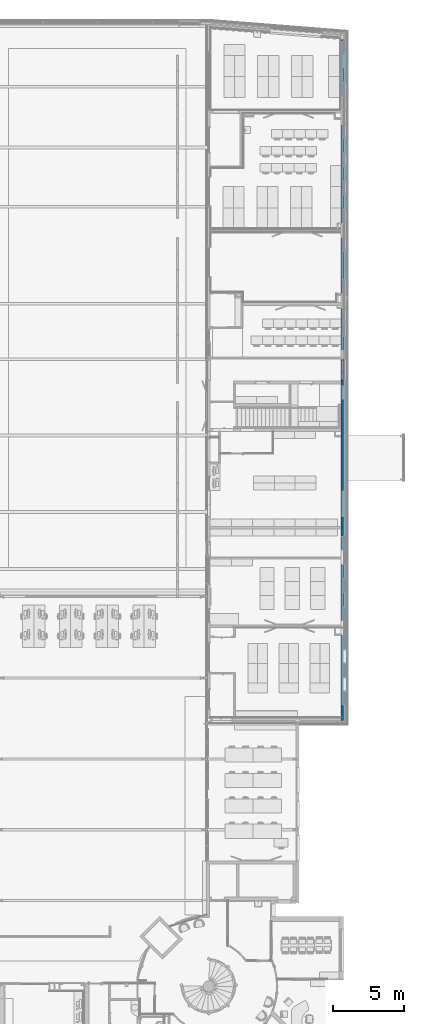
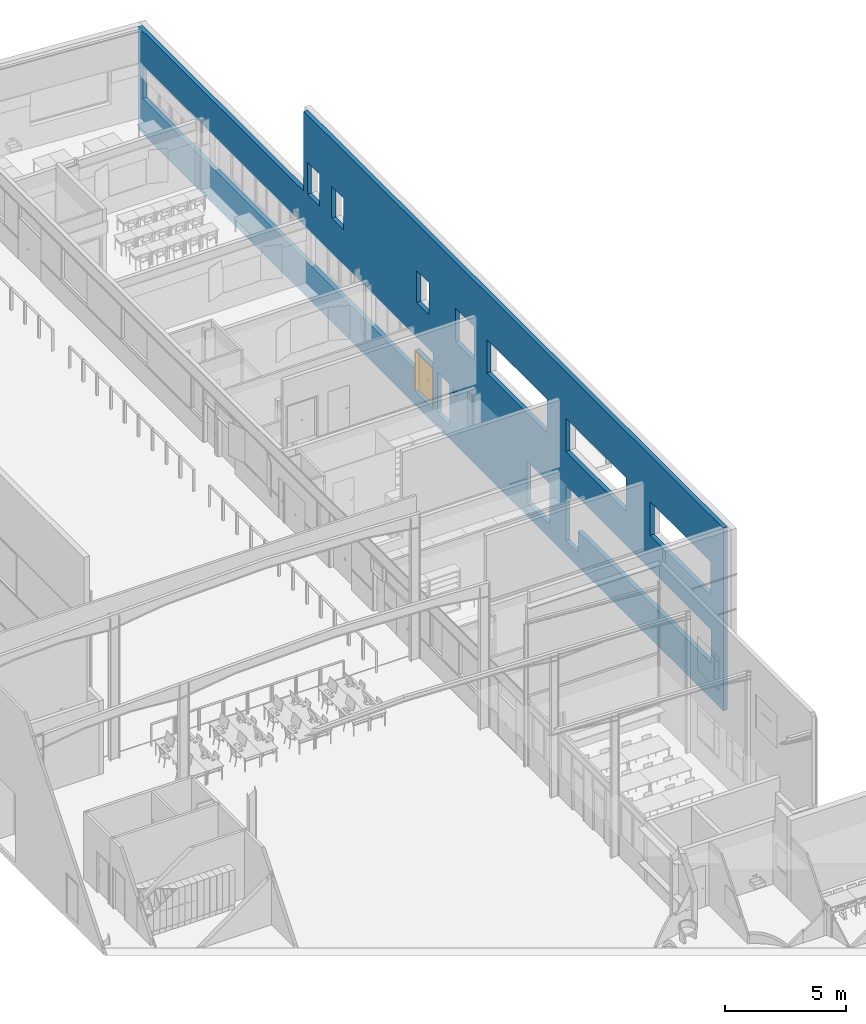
# One storey, part 99 of 137: 1 door, 1 wall, 4 openings.
"""IFC2X3 building model written with IfcOpenShell, lengths in centimetres."""

from ifc_helpers import new_model, entity, si_unit, converted_unit, derived_unit, direction, frame, frame_2d, origin, place, context, subcontext, project, spatial, rectangle, extrude, faceted_brep, source, transform, mapped, material, material_list, type_object, type_shapes, element, fill, save


model = new_model("IFC2X3")

# Units and contexts
model_context = context("Model", 3, precision=0.001, world=origin(), true_north=direction((6.12303176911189e-17, 1.0)))
body_context = subcontext(model_context, "Body", "Model", "MODEL_VIEW")
ifc_project = project(units=[si_unit("LENGTHUNIT", "METRE", prefix="CENTI"), si_unit("AREAUNIT", "SQUARE_METRE"), si_unit("VOLUMEUNIT", "CUBIC_METRE"), converted_unit("PLANEANGLEUNIT", "DEGREE", entity("IfcRatioMeasure", 0.0174532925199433), si_unit("PLANEANGLEUNIT", "RADIAN"), dimensions=[0, 0, 0, 0, 0, 0, 0]), si_unit("MASSUNIT", "GRAM", prefix="KILO"), si_unit("TIMEUNIT", "SECOND"), si_unit("FREQUENCYUNIT", "HERTZ"), si_unit("THERMODYNAMICTEMPERATUREUNIT", "DEGREE_CELSIUS"), derived_unit("THERMALTRANSMITTANCEUNIT", [(si_unit("MASSUNIT", "GRAM", prefix="KILO"), 1), (si_unit("THERMODYNAMICTEMPERATUREUNIT", "KELVIN"), -1), (si_unit("TIMEUNIT", "SECOND"), -3)]), derived_unit("VOLUMETRICFLOWRATEUNIT", [(si_unit("LENGTHUNIT", "METRE"), 3), (si_unit("TIMEUNIT", "SECOND"), -1)]), si_unit("ELECTRICCURRENTUNIT", "AMPERE"), si_unit("ELECTRICVOLTAGEUNIT", "VOLT"), si_unit("POWERUNIT", "WATT"), si_unit("FORCEUNIT", "NEWTON", prefix="KILO"), si_unit("ILLUMINANCEUNIT", "LUX"), si_unit("LUMINOUSFLUXUNIT", "LUMEN"), si_unit("LUMINOUSINTENSITYUNIT", "CANDELA"), derived_unit("USERDEFINED", [(si_unit("MASSUNIT", "GRAM", prefix="KILO"), -1), (si_unit("LENGTHUNIT", "METRE"), -2), (si_unit("TIMEUNIT", "SECOND"), 3), (si_unit("LUMINOUSFLUXUNIT", "LUMEN"), 1)]), derived_unit("LINEARVELOCITYUNIT", [(si_unit("LENGTHUNIT", "METRE"), 1), (si_unit("TIMEUNIT", "SECOND"), -1)]), si_unit("PRESSUREUNIT", "PASCAL"), derived_unit("USERDEFINED", [(si_unit("LENGTHUNIT", "METRE"), -2), (si_unit("MASSUNIT", "GRAM", prefix="KILO"), 1), (si_unit("TIMEUNIT", "SECOND"), -2)])], contexts=[model_context])

# Site, building, storey
site_placement = place(None, frame((8.62739174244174, -249.285249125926, 0.0)))
site = spatial("IfcSite", under=ifc_project, at=site_placement, Name="Default", CompositionType="ELEMENT")
building_placement = place(site_placement, origin())
building = spatial("IfcBuilding", under=site, at=building_placement, CompositionType="ELEMENT")
storey_placement = place(building_placement, origin())
storey = spatial("IfcBuildingStorey", under=building, at=storey_placement, Name="RDC", CompositionType="ELEMENT", Elevation=-8.82465566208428e-11)

# Wall, openings, door
ifc_material_1 = material(Name="Béton, coulé sur place, gris")
wall_type = type_object("IfcWallType", Name="Mur de base:BET 21", PredefinedType="NOTDEFINED")
wall_placement = place(storey_placement, frame((3988.90482781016, 2634.98020806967, -70.0), z_axis=(0.0, 0.0, 1.0), x_axis=(0.0, 1.0, 0.0)))
wall = element("IfcWall", 1, at=wall_placement, inside=storey, type_object=wall_type, material=ifc_material_1, Name="Mur de base:BET 21", ObjectType="Mur de base:BET 21", context=body_context, shape_type="Brep", body=[
    faceted_brep([(4814.40916101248, -10.0, 350.0), (4814.40916101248, -10.0, 180.0), (2558.0, -10.0, 180.0), (2558.0, -10.0, 278.0), (2407.0, -10.0, 278.0), (2407.0, -10.0, 350.0), (2223.0, -10.0, 691.0), (2223.0, -10.0, 521.0), (2068.0, -10.0, 521.0), (2068.0, -10.0, 691.0), (2236.48822441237, -10.0, 273.988224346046), (2236.48822441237, -10.0, 253.988224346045), (2205.51572422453, -10.0, 253.988224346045), (2205.51572422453, -10.0, 273.988224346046), (2408.0, -10.0, 70.0), (2408.0, -10.0, 85.0), (2408.0, -10.0, 277.0), (2557.0, -10.0, 277.0), (2557.0, -10.0, 85.0), (2557.0, -10.0, 70.0), (2372.0, -10.0, 277.499999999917), (2372.0, -10.0, 85.0), (2372.0, -10.0, 70.0), (2272.0, -10.0, 70.0), (2272.0, -10.0, 85.0), (2272.0, -10.0, 277.499999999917), (1629.20498529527, -10.0, 277.0), (1629.20498529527, -10.0, 85.0), (1629.20498529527, -10.0, 70.0), (1440.20498529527, -10.0, 70.0), (1440.20498529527, -10.0, 85.0), (1440.20498529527, -10.0, 277.0), (1305.204985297, -10.0, 277.499999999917), (1305.204985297, -10.0, 85.0), (1305.204985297, -10.0, 70.0), (1205.204985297, -10.0, 70.0), (1205.204985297, -10.0, 85.0), (1205.204985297, -10.0, 180.0), (104.204985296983, -10.0, 180.0), (104.204985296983, -10.0, 350.0), (1304.20498529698, -10.0, 350.0), (1304.20498529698, -10.0, 277.499999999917), (1961.60249267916, -10.0, 691.0), (1961.60249267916, -10.0, 521.0), (1461.60249267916, -10.0, 521.0), (1461.60249267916, -10.0, 691.0), (1306.70498529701, -10.0, 691.0), (1306.70498529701, -10.0, 521.0), (806.704985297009, -10.0, 521.0), (806.704985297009, -10.0, 691.0), (606.704985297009, -10.0, 691.0), (606.704985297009, -10.0, 521.0), (106.704985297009, -10.0, 521.0), (106.704985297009, -10.0, 691.0), (3448.0117757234, -10.0, 686.011775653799), (3448.0117757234, -10.0, 525.011775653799), (3348.0117757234, -10.0, 525.011775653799), (3348.0117757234, -10.0, 686.011775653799), (3006.0, -10.0, 170.207427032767), (3006.0, -10.0, 89.8417534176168), (2975.0, -10.0, 89.8417534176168), (2975.0, -10.0, 170.207427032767), (2543.0, -10.0, 686.5117756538), (2543.0, -10.0, 525.511775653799), (2443.0, -10.0, 525.511775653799), (2443.0, -10.0, 686.5117756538), (3480.0, -10.0, 925.0), (3448.0, -10.0, 925.0), (32.0, -10.0, 925.0), (0.0, -10.0, 925.0), (0.0, -10.0, 0.0), (4853.30717049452, -10.0, 0.0), (4853.30717049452, -10.0, 521.0), (3507.0, -10.0, 521.0), (3480.0, -10.0, 521.0), (3248.0117757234, -10.0, 686.011775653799), (3248.0117757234, -10.0, 525.011775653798), (3148.0117757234, -10.0, 525.011775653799), (3148.0117757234, -10.0, 686.011775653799), (2408.0, 10.0, 277.0), (2408.0, 10.0, 70.0), (2557.0, 10.0, 70.0), (2557.0, 10.0, 277.0), (2372.0, 10.0, 70.0), (2372.0, 10.0, 277.499999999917), (2272.0, 10.0, 277.499999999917), (2272.0, 10.0, 70.0), (1629.20498529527, 10.0, 70.0), (1629.20498529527, 10.0, 277.0), (1440.20498529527, 10.0, 277.0), (1440.20498529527, 10.0, 70.0), (1305.204985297, 10.0, 70.0), (1305.204985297, 10.0, 277.499999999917), (1304.20498529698, 10.0, 277.499999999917), (1304.20498529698, 10.0, 350.0), (104.204985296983, 10.0, 350.0), (104.204985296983, 10.0, 180.0), (1205.204985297, 10.0, 180.0), (1205.204985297, 10.0, 70.0), (4814.40916101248, 10.0, 180.0), (4814.40916101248, 10.0, 350.0), (2407.0, 10.0, 350.0), (2407.0, 10.0, 278.0), (2558.0, 10.0, 278.0), (2558.0, 10.0, 180.0), (2223.0, 10.0, 521.0), (2223.0, 10.0, 691.0), (2068.0, 10.0, 691.0), (2068.0, 10.0, 521.0), (0.0, 10.0, 925.0), (20.0, 10.0, 925.0), (3460.0, 10.0, 925.0), (3480.0, 10.0, 925.0), (3480.0, 10.0, 521.0), (4834.82616616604, 10.0, 521.0), (4854.88859101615, 10.0, 521.0), (4854.88859101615, 10.0, 0.0), (4834.82616616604, 10.0, 0.0), (2960.0, 10.0, 0.0), (2940.0, 10.0, 0.0), (2403.0, 10.0, 0.0), (2383.0, 10.0, 0.0), (2068.0, 10.0, 0.0), (2048.0, 10.0, 0.0), (1375.20498529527, 10.0, 0.0), (1355.20498529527, 10.0, 0.0), (0.0, 10.0, 0.0), (2236.48822441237, 10.0, 253.988224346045), (2236.48822441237, 10.0, 273.988224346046), (2205.51572422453, 10.0, 273.988224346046), (2205.51572422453, 10.0, 253.988224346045), (1961.60249267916, 10.0, 521.0), (1961.60249267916, 10.0, 691.0), (1461.60249267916, 10.0, 691.0), (1461.60249267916, 10.0, 521.0), (1306.70498529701, 10.0, 521.0), (1306.70498529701, 10.0, 691.0), (806.704985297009, 10.0, 691.0), (806.704985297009, 10.0, 521.0), (606.704985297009, 10.0, 521.0), (606.704985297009, 10.0, 691.0), (106.704985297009, 10.0, 691.0), (106.704985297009, 10.0, 521.0), (3448.0117757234, 10.0, 525.011775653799), (3448.0117757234, 10.0, 686.011775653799), (3348.0117757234, 10.0, 686.011775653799), (3348.0117757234, 10.0, 525.011775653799), (3006.0, 10.0, 89.8417534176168), (3006.0, 10.0, 170.207427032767), (2975.0, 10.0, 170.207427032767), (2975.0, 10.0, 89.8417534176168), (2543.0, 10.0, 525.511775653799), (2543.0, 10.0, 686.5117756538), (2443.0, 10.0, 686.5117756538), (2443.0, 10.0, 525.511775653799), (3248.0117757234, 10.0, 525.011775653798), (3248.0117757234, 10.0, 686.011775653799), (3148.0117757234, 10.0, 686.011775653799), (3148.0117757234, 10.0, 525.011775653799)], [[[0, 1, 2, 3, 4, 5], [6, 7, 8, 9], [10, 11, 12, 13], [14, 15, 16, 17, 18, 19], [20, 21, 22, 23, 24, 25], [26, 27, 28, 29, 30, 31], [32, 33, 34, 35, 36, 37, 38, 39, 40, 41], [42, 43, 44, 45], [46, 47, 48, 49], [50, 51, 52, 53], [54, 55, 56, 57], [58, 59, 60, 61], [62, 63, 64, 65], [66, 67, 68, 69, 70, 71, 72, 73, 74], [75, 76, 77, 78]], [[79, 80, 81, 82], [83, 84, 85, 86], [87, 88, 89, 90], [91, 92, 93, 94, 95, 96, 97, 98], [99, 100, 101, 102, 103, 104], [105, 106, 107, 108], [109, 110, 111, 112, 113, 114, 115, 116, 117, 118, 119, 120, 121, 122, 123, 124, 125, 126], [127, 128, 129, 130], [131, 132, 133, 134], [135, 136, 137, 138], [139, 140, 141, 142], [143, 144, 145, 146], [147, 148, 149, 150], [151, 152, 153, 154], [155, 156, 157, 158]], [[14, 80, 79, 16, 15]], [[16, 79, 82, 17]], [[81, 19, 18, 17, 82]], [[80, 14, 19, 81]], [[83, 22, 21, 20, 84]], [[84, 20, 25, 85]], [[23, 86, 85, 25, 24]], [[22, 83, 86, 23]], [[87, 28, 27, 26, 88]], [[88, 26, 31, 89]], [[29, 90, 89, 31, 30]], [[28, 87, 90, 29]], [[35, 98, 97, 37, 36]], [[92, 32, 41, 93]], [[91, 34, 33, 32, 92]], [[98, 35, 34, 91]], [[69, 68, 67, 66, 112, 111, 110, 109]], [[70, 69, 109, 126]], [[74, 73, 72, 115, 114, 113]], [[66, 74, 113, 112]], [[99, 1, 0, 100]], [[100, 0, 5, 101]], [[101, 5, 4, 102]], [[102, 4, 3, 103]], [[40, 94, 93, 41]], [[94, 40, 39, 95]], [[95, 39, 38, 96]], [[96, 38, 37, 97]], [[103, 3, 2, 104]], [[1, 99, 104, 2]], [[105, 7, 6, 106]], [[106, 6, 9, 107]], [[107, 9, 8, 108]], [[7, 105, 108, 8]], [[11, 10, 128, 127]], [[12, 11, 127, 130]], [[13, 12, 130, 129]], [[10, 13, 129, 128]], [[71, 70, 126, 125, 124, 123, 122, 121, 120, 119, 118, 117, 116]], [[131, 43, 42, 132]], [[132, 42, 45, 133]], [[133, 45, 44, 134]], [[43, 131, 134, 44]], [[135, 47, 46, 136]], [[136, 46, 49, 137]], [[137, 49, 48, 138]], [[47, 135, 138, 48]], [[139, 51, 50, 140]], [[140, 50, 53, 141]], [[141, 53, 52, 142]], [[51, 139, 142, 52]], [[72, 71, 116, 115]], [[55, 54, 144, 143]], [[56, 55, 143, 146]], [[57, 56, 146, 145]], [[54, 57, 145, 144]], [[59, 58, 148, 147]], [[60, 59, 147, 150]], [[61, 60, 150, 149]], [[58, 61, 149, 148]], [[63, 62, 152, 151]], [[64, 63, 151, 154]], [[65, 64, 154, 153]], [[62, 65, 153, 152]], [[76, 75, 156, 155]], [[77, 76, 155, 158]], [[78, 77, 158, 157]], [[75, 78, 157, 156]]], outer=[[False, False, False, False, False, False, False, False, False, False, False, False, False, True, False], [False, False, False, False, False, False, True, False, False, False, False, False, False, False, False], [True], [True], [True], [True], [True], [True], [True], [True], [True], [True], [True], [True], [True], [True], [True], [True], [True], [True], [True], [True], [True], [True], [True], [True], [True], [True], [True], [True], [True], [True], [True], [True], [True], [True], [True], [True], [True], [True], [True], [True], [True], [True], [True], [True], [True], [True], [True], [True], [True], [True], [True], [True], [True], [True], [True], [True], [True], [True], [True], [True], [True], [True], [True], [True], [True], [True], [True], [True]]),
])
opening_1_placement = place(wall_placement, frame((2557.0, 10.0, 70.0)))
opening_1 = element("IfcOpeningElement", 2, at=opening_1_placement, cuts=wall, Name="Tierce(R)_bois_mu:143 x 204 cm:1", ObjectType="Opening", context=body_context, shape_type="SweptSolid", body=[
    extrude(rectangle(XDim=206.999999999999, YDim=149.0, at=frame_2d((103.499999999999, 74.4999999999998), x_axis=(1.0, 0.0))), frame((0.0, 0.0, 0.0), z_axis=(0.0, -1.0, 0.0), x_axis=(0.0, 0.0, 1.0)), (0.0, 0.0, 1.0), 20.0),
])
opening_2_placement = place(wall_placement, frame((2372.0, 10.0, 70.0)))
element("IfcOpeningElement", 3, at=opening_2_placement, cuts=wall, Name="Simple(R)_bois_mu:93 x 204 cm:1", ObjectType="Opening", context=body_context, shape_type="SweptSolid", body=[
    extrude(rectangle(XDim=207.499999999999, YDim=99.9999999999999, at=frame_2d((103.749999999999, 49.9999999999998), x_axis=(1.0, 0.0))), frame((0.0, 0.0, 0.0), z_axis=(0.0, -1.0, 0.0), x_axis=(0.0, 0.0, 1.0)), (0.0, 0.0, 1.0), 20.0),
])
opening_3_placement = place(wall_placement, frame((1629.20498529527, 10.0, 70.0)))
element("IfcOpeningElement", 4, at=opening_3_placement, cuts=wall, Name="Double(R)_bois_mu:183 x 204 cm:1", ObjectType="Opening", context=body_context, shape_type="SweptSolid", body=[
    extrude(rectangle(XDim=206.999999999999, YDim=189.0, at=frame_2d((103.499999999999, 94.5000000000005), x_axis=(1.0, 0.0))), frame((0.0, 0.0, 0.0), z_axis=(0.0, -1.0, 0.0), x_axis=(0.0, 0.0, 1.0)), (0.0, 0.0, 1.0), 20.0),
])
opening_4_placement = place(wall_placement, frame((1305.204985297, 10.0, 70.0)))
element("IfcOpeningElement", 5, at=opening_4_placement, cuts=wall, Name="Simple(R)_bois_mu:93 x 204 cm:1", ObjectType="Opening", context=body_context, shape_type="SweptSolid", body=[
    extrude(rectangle(XDim=207.499999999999, YDim=99.9999999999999, at=frame_2d((103.749999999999, 50.0), x_axis=(1.0, 0.0))), frame((0.0, 0.0, 0.0), z_axis=(0.0, -1.0, 0.0), x_axis=(0.0, 0.0, 1.0)), (0.0, 0.0, 1.0), 20.0),
])
ifc_material_2 = material(Name="Aluminium-Dorma Metal-Anodized Silver")
ifc_material_3 = material(Name="Porte - Cadre")
ifc_material_4 = material(Name="Porte - Panneau")
ifc_material_list_1 = material_list([ifc_material_2, ifc_material_3, ifc_material_4])
ifc_material_list_2 = material_list([ifc_material_2, ifc_material_3, ifc_material_4])
door_style = type_object("IfcDoorStyle", Name="143 x 204 cm", ConstructionType="NOTDEFINED", OperationType="NOTDEFINED", ParameterTakesPrecedence=False, Sizeable=False, material=ifc_material_list_2)
shared_shape = source(origin(), body_context, "Body", "Brep", [
    faceted_brep([(60.2974701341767, 3.69999999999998, 100.778044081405), (59.8999999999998, 3.69999999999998, 100.699999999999), (59.8999999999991, 3.69999999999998, 99.2999999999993), (60.2974701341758, 3.69999999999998, 99.2219559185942), (60.7025298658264, 3.69999999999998, 99.2219559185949), (61.1000000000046, 3.69999999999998, 99.3000000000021), (61.100000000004, 3.69999999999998, 100.699999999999), (60.7025298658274, 3.69999999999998, 100.778044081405), (61.1000000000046, 5.94852045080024, 99.3000000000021), (61.1000000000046, 5.94852045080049, 100.699999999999), (60.7025298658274, 6.1131579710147, 100.778044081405), (62.0838906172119, 7.49451872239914, 100.778044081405), (61.916109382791, 7.89957845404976, 100.778044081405), (60.2974701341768, 6.2809392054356, 100.778044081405), (71.0684749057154, 6.84673156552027, 100.778044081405), (71.3548953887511, 7.13315204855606, 100.778044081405), (70.5884689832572, 7.89957845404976, 100.778044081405), (70.4206877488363, 7.49451872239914, 100.778044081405), (59.8999999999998, 6.44557672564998, 100.699999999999), (59.8999999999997, 6.44557672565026, 99.2999999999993), (60.2974701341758, 6.28093920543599, 99.2219559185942), (61.9161093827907, 7.8995784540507, 99.2219559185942), (62.0838906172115, 7.49451872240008, 99.2219559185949), (60.7025298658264, 6.11315797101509, 99.2219559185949), (71.3548953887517, 7.13315204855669, 99.2219559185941), (71.068474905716, 6.84673156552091, 99.2219559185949), (70.4206877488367, 7.49451872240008, 99.2219559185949), (70.5884689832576, 7.8995784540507, 99.2219559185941), (62.2485281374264, 7.09704858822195, 99.3000000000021), (62.2485281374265, 7.09704858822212, 100.699999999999), (61.7514718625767, 8.29704858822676, 100.699999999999), (61.7514718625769, 8.29704858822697, 99.2999999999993), (66.2522904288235, 7.09704858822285, 99.3000000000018), (70.2560502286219, 7.09704858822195, 99.3000000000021), (70.2560502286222, 7.09704858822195, 100.699999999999), (66.2522891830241, 7.09704858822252, 100.699999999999), (66.2522891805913, 7.71249275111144, 100.787811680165), (70.7531065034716, 8.29704858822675, 100.699999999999), (66.7600577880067, 8.29704858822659, 100.699999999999), (70.7531065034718, 8.29704858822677, 99.2999999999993), (65.7445206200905, 8.29704858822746, 99.2999999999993), (66.2522892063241, 7.71249274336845, 99.2121883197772), (70.7874210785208, 6.56567773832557, 99.3000000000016), (71.6359492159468, 7.41420587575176, 99.2999999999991), (71.6359492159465, 7.4142058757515, 100.699999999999), (70.7874210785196, 6.5656777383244, 100.699999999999)], [[[0, 1, 2, 3, 4, 5, 6, 7]], [[6, 5, 8, 9]], [[9, 10, 7, 6]], [[10, 11, 12, 13, 0, 7]], [[14, 15, 16, 17]], [[13, 18, 1, 0]], [[2, 1, 18, 19]], [[19, 20, 3, 2]], [[20, 21, 22, 23, 4, 3]], [[24, 25, 26, 27]], [[23, 8, 5, 4]], [[9, 8, 28, 29]], [[29, 11, 10, 9]], [[12, 30, 18, 13]], [[19, 18, 30, 31]], [[31, 21, 20, 19]], [[22, 28, 8, 23]], [[29, 28, 32, 33, 34, 35]], [[11, 35, 36]], [[16, 37, 38]], [[30, 12, 38]], [[38, 12, 36]], [[36, 35, 17]], [[17, 16, 36]], [[35, 11, 29]], [[34, 17, 35]], [[11, 36, 12]], [[38, 36, 16]], [[31, 30, 38, 37, 39, 40]], [[40, 41, 21]], [[41, 40, 27]], [[21, 31, 40]], [[39, 27, 40]], [[41, 32, 22]], [[22, 21, 41]], [[26, 32, 41]], [[28, 22, 32]], [[32, 26, 33]], [[26, 41, 27]], [[42, 25, 24, 43, 44, 15, 14, 45]], [[34, 33, 42, 45]], [[45, 14, 17, 34]], [[15, 44, 37, 16]], [[39, 37, 44, 43]], [[43, 24, 27, 39]], [[25, 42, 33, 26]]]),
    faceted_brep([(60.2974701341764, -1.30000000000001, 100.778044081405), (60.702529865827, -1.30000000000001, 100.778044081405), (61.1000000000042, -1.30000000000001, 100.699999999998), (61.1000000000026, -1.30000000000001, 99.3000000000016), (60.7025298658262, -1.30000000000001, 99.2219559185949), (60.2974701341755, -1.30000000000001, 99.2219559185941), (59.8999999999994, -1.30000000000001, 99.2999999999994), (59.8999999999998, -1.30000000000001, 100.699999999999), (59.8999999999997, -4.06509507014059, 100.699999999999), (60.2974701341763, -3.90045754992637, 100.778044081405), (61.9023585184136, -5.50534593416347, 100.778044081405), (62.0701397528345, -5.10028620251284, 100.778044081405), (60.702529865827, -3.73267631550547, 100.778044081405), (71.3521810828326, -4.73891952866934, 100.778044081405), (71.0657605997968, -4.4524990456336, 100.778044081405), (70.4179734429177, -5.10028620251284, 100.778044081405), (70.5857546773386, -5.50534593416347, 100.778044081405), (61.1000000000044, -3.56803879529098, 100.699999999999), (61.1000000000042, -3.56803879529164, 99.3000000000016), (60.7025298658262, -3.7326763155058, 99.2219559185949), (62.0701397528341, -5.10028620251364, 99.2219559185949), (61.9023585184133, -5.50534593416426, 99.2219559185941), (60.2974701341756, -3.9004575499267, 99.2219559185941), (71.0657605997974, -4.45249904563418, 99.2219559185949), (71.3521810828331, -4.73891952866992, 99.2219559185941), (70.5857546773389, -5.50534593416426, 99.2219559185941), (70.417973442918, -5.10028620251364, 99.2219559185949), (59.8999999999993, -4.06509507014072, 99.2999999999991), (61.7377209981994, -5.90281606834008, 100.699999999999), (62.234777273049, -4.70281606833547, 100.699999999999), (62.2347772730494, -4.70281606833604, 99.3000000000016), (61.7377209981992, -5.90281606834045, 99.2999999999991), (65.730769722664, -5.90281606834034, 100.699999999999), (66.2440566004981, -5.31828027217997, 100.787811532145), (70.7503921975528, -5.90281606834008, 100.699999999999), (66.2440565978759, -4.70281606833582, 100.699999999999), (70.2533359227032, -4.70281606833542, 100.699999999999), (70.2533359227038, -4.70281606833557, 99.3000000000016), (66.2440563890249, -4.70281606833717, 99.3000000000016), (66.2440565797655, -5.31828027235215, 99.2121884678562), (70.7503921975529, -5.90281606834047, 99.2999999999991), (66.7573433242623, -5.90281606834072, 99.2999999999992), (70.7847067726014, -4.1714452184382, 100.699999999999), (71.6332349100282, -5.01997335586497, 100.699999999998), (71.6332349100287, -5.01997335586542, 99.2999999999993), (70.7847067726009, -4.17144521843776, 99.3000000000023)], [[[0, 1, 2, 3, 4, 5, 6, 7]], [[8, 9, 0, 7]], [[9, 10, 11, 12, 1, 0]], [[13, 14, 15, 16]], [[12, 17, 2, 1]], [[3, 2, 17, 18]], [[18, 19, 4, 3]], [[19, 20, 21, 22, 5, 4]], [[23, 24, 25, 26]], [[22, 27, 6, 5]], [[7, 6, 27, 8]], [[28, 10, 9, 8]], [[11, 29, 17, 12]], [[18, 17, 29, 30]], [[30, 20, 19, 18]], [[21, 31, 27, 22]], [[8, 27, 31, 28]], [[32, 33, 10]], [[33, 32, 16]], [[10, 28, 32]], [[34, 16, 32]], [[33, 35, 11]], [[11, 10, 33]], [[15, 35, 33]], [[29, 11, 35]], [[35, 15, 36]], [[15, 33, 16]], [[30, 29, 35, 36, 37, 38]], [[20, 38, 39]], [[25, 40, 41]], [[31, 21, 41]], [[41, 21, 39]], [[39, 38, 26]], [[26, 25, 39]], [[38, 20, 30]], [[37, 26, 38]], [[20, 39, 21]], [[41, 39, 25]], [[28, 31, 41, 40, 34, 32]], [[42, 14, 13, 43, 44, 24, 23, 45]], [[43, 13, 16, 34]], [[14, 42, 36, 15]], [[37, 36, 42, 45]], [[45, 23, 26, 37]], [[24, 44, 40, 25]], [[34, 40, 44, 43]]]),
    faceted_brep([(61.5352761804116, 3.19999999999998, 86.6003983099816), (62.5000000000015, 3.19999999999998, 87.0), (62.5000000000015, 3.19999999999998, 108.0), (61.5352761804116, 3.19999999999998, 108.399601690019), (60.5000000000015, 3.19999999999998, 108.535898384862), (59.4647238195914, 3.19999999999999, 108.399601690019), (58.5000000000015, 3.19999999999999, 108.0), (58.5000000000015, 3.19999999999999, 87.0), (59.4647238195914, 3.19999999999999, 86.6003983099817), (60.5000000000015, 3.19999999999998, 86.4641016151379), (61.5352761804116, 3.69999999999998, 108.399601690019), (62.5000000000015, 3.69999999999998, 108.0), (62.5000000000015, 3.69999999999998, 87.0), (61.5352761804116, 3.69999999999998, 86.6003983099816), (60.5000000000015, 3.69999999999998, 86.4641016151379), (59.4647238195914, 3.69999999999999, 86.6003983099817), (58.5000000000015, 3.69999999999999, 87.0), (58.5000000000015, 3.69999999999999, 108.0), (59.4647238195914, 3.69999999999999, 108.399601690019), (60.5000000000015, 3.69999999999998, 108.535898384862)], [[[0, 1, 2, 3, 4, 5, 6, 7, 8, 9]], [[10, 11, 12, 13, 14, 15, 16, 17, 18, 19]], [[11, 10, 3, 2]], [[3, 10, 19, 4]], [[19, 18, 5, 4]], [[18, 17, 6, 5]], [[7, 6, 17, 16]], [[16, 15, 8, 7]], [[8, 15, 14, 9]], [[14, 13, 0, 9]], [[13, 12, 1, 0]], [[2, 1, 12, 11]]]),
    faceted_brep([(61.5352761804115, -1.30000000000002, 86.6003983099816), (62.5000000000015, -1.30000000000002, 87.0), (62.5000000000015, -1.30000000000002, 108.0), (61.5352761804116, -1.30000000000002, 108.399601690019), (60.5000000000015, -1.30000000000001, 108.535898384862), (59.4647238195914, -1.30000000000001, 108.399601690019), (58.5000000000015, -1.30000000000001, 108.0), (58.5000000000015, -1.30000000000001, 87.0), (59.4647238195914, -1.30000000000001, 86.6003983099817), (60.5000000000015, -1.30000000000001, 86.4641016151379), (61.5352761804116, -0.800000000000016, 108.399601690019), (62.5000000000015, -0.800000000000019, 108.0), (62.5000000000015, -0.800000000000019, 87.0), (61.5352761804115, -0.800000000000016, 86.6003983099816), (60.5000000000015, -0.800000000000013, 86.4641016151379), (59.4647238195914, -0.800000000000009, 86.6003983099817), (58.5000000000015, -0.800000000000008, 87.0), (58.5000000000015, -0.800000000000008, 108.0), (59.4647238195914, -0.800000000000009, 108.399601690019), (60.5000000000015, -0.800000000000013, 108.535898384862)], [[[0, 1, 2, 3, 4, 5, 6, 7, 8, 9]], [[10, 11, 12, 13, 14, 15, 16, 17, 18, 19]], [[16, 15, 8, 7]], [[8, 15, 14, 9]], [[14, 13, 0, 9]], [[13, 12, 1, 0]], [[2, 1, 12, 11]], [[11, 10, 3, 2]], [[3, 10, 19, 4]], [[19, 18, 5, 4]], [[18, 17, 6, 5]], [[7, 6, 17, 16]]]),
    faceted_brep([(149.0, 0.0, 0.0), (150.0, 0.0, 0.0), (150.0, -0.799999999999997, 0.0), (146.0, -0.799999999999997, 0.0), (146.0, 3.2, 0.0), (145.0, 3.2, 0.0), (145.0, 20.8000000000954, 0.0), (150.0, 20.8000000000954, 0.0), (150.0, 20.0, 0.0), (149.0, 20.0, 0.0), (149.0, 20.0, 207.0), (149.0, 0.0, 207.0), (150.0, 20.0, 208.0), (-1.0, 20.0, 208.0), (-1.0, 20.0, 0.0), (0.0, 20.0, 0.0), (0.0, 20.0, 207.0), (150.0, 20.8000000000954, 208.0), (145.0, 20.8000000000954, 203.0), (4.0, 20.8000000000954, 203.0), (4.0, 20.8000000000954, 0.0), (-1.0, 20.8000000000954, 0.0), (-1.0, 20.8000000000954, 208.0), (145.0, 3.2, 203.0), (146.0, 3.2, 204.0), (3.0, 3.2, 204.0), (3.0, 3.2, 0.0), (4.0, 3.2, 0.0), (4.0, 3.2, 203.0), (146.0, -0.799999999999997, 204.0), (150.0, -0.799999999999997, 208.0), (-1.0, -0.799999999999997, 208.0), (-1.0, -0.799999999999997, 0.0), (3.0, -0.799999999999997, 0.0), (3.0, -0.799999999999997, 204.0), (150.0, 0.0, 208.0), (0.0, 0.0, 207.0), (0.0, 0.0, 0.0), (-1.0, 0.0, 0.0), (-1.0, 0.0, 208.0)], [[[0, 1, 2, 3, 4, 5, 6, 7, 8, 9]], [[9, 10, 11, 0]], [[8, 12, 13, 14, 15, 16, 10, 9]], [[7, 17, 12, 8]], [[6, 18, 19, 20, 21, 22, 17, 7]], [[5, 23, 18, 6]], [[4, 24, 25, 26, 27, 28, 23, 5]], [[3, 29, 24, 4]], [[2, 30, 31, 32, 33, 34, 29, 3]], [[1, 35, 30, 2]], [[0, 11, 36, 37, 38, 39, 35, 1]], [[16, 15, 37, 36]], [[37, 15, 14, 21, 20, 27, 26, 33, 32, 38]], [[22, 21, 14, 13]], [[28, 27, 20, 19]], [[34, 33, 26, 25]], [[39, 38, 32, 31]], [[10, 16, 36, 11]], [[17, 22, 13, 12]], [[23, 28, 19, 18]], [[29, 34, 25, 24]], [[35, 39, 31, 30]]]),
    faceted_brep([(3.0, -0.799999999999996, 204.0), (3.0, -0.799999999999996, 0.0), (55.0, -0.799999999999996, 0.0), (55.0, -0.799999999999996, 204.0), (3.0, 3.2, 204.0), (55.0, 3.2, 204.0), (55.0, 3.2, 0.0), (3.0, 3.2, 0.0)], [[[0, 1, 2, 3]], [[4, 5, 6, 7]], [[3, 5, 4, 0]], [[2, 6, 5, 3]], [[1, 7, 6, 2]], [[0, 4, 7, 1]]]),
    faceted_brep([(146.0, -0.799999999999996, 0.0), (146.0, -0.799999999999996, 204.0), (55.0, -0.799999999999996, 204.0), (55.0, -0.799999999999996, 0.0), (146.0, 3.2, 0.0), (55.0, 3.2, 0.0), (55.0, 3.2, 204.0), (146.0, 3.2, 204.0)], [[[0, 1, 2, 3]], [[4, 5, 6, 7]], [[3, 5, 4, 0]], [[2, 6, 5, 3]], [[1, 7, 6, 2]], [[0, 4, 7, 1]]]),
])
type_shapes(door_style, [shared_shape])
door_placement = place(opening_1_placement, frame((-149.0, -20.0, 0.0)))
door = element("IfcDoor", 6, at=door_placement, inside=storey, type_object=door_style, material=ifc_material_list_1, Name="Tierce(R)_bois_mu:143 x 204 cm", ObjectType="143 x 204 cm", OverallHeight=206.999999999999, OverallWidth=149.0, context=body_context, shape_type="MappedRepresentation", body=[
    mapped(shared_shape, transform((0.0, 0.0, 0.0), scale=1.0)),
])
fill(opening_1, door)

save(model, "model.ifc")
